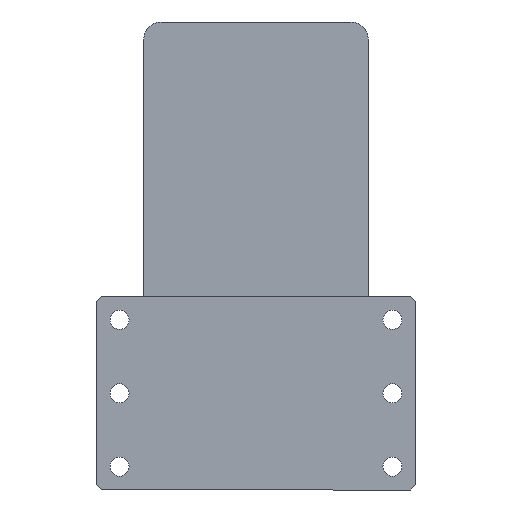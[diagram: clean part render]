
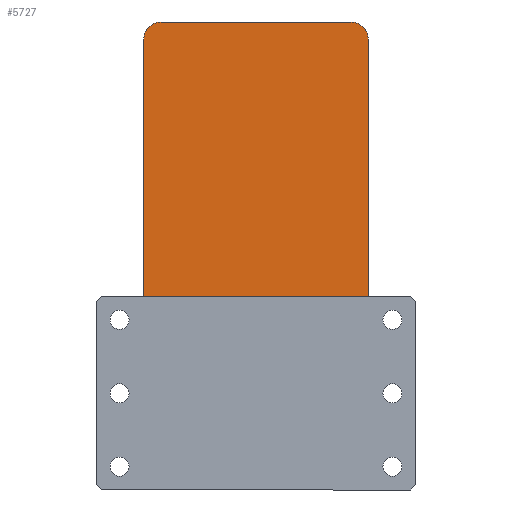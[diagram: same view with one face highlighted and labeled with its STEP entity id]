
A CAD part, left-side view. The second image highlights one B-rep face of the part: STEP entity #5727.
In plain terms, the highlighted planar face has unit normal (-1, 0, 0) as drawn and (0, 0, 1) by its records, which use the part's own axes.
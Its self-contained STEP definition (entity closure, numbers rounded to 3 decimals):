
#371 = FACE_OUTER_BOUND ( 'NONE', #1983, .T. ) ;
#1137 = VECTOR ( 'NONE', #7752, 1000. ) ;
#1192 = LINE ( 'NONE', #7703, #1137 ) ;
#1201 = ORIENTED_EDGE ( 'NONE', *, *, #8627, .T. ) ;
#1276 = DIRECTION ( 'NONE',  ( -1., 0., 0. ) ) ;
#1322 = CARTESIAN_POINT ( 'NONE',  ( -65., 135., 105. ) ) ;
#1378 = CARTESIAN_POINT ( 'NONE',  ( -55., -135., 105. ) ) ;
#1595 = ORIENTED_EDGE ( 'NONE', *, *, #10078, .T. ) ;
#1732 = CIRCLE ( 'NONE', #4521, 10. ) ;
#1790 = CIRCLE ( 'NONE', #3839, 10. ) ;
#1862 = CIRCLE ( 'NONE', #10129, 10. ) ;
#1880 = CARTESIAN_POINT ( 'NONE',  ( -65., -125., 105. ) ) ;
#1983 = EDGE_LOOP ( 'NONE', ( #3787, #7437, #1201, #3826, #4200, #8307, #10617, #1595 ) ) ;
#3647 = CARTESIAN_POINT ( 'NONE',  ( -55., 135., 105. ) ) ;
#3787 = ORIENTED_EDGE ( 'NONE', *, *, #5422, .T. ) ;
#3826 = ORIENTED_EDGE ( 'NONE', *, *, #3878, .T. ) ;
#3839 = AXIS2_PLACEMENT_3D ( 'NONE', #4393, #4347, #4257 ) ;
#3878 = EDGE_CURVE ( 'NONE', #8622, #9997, #4918, .T. ) ;
#4040 = DIRECTION ( 'NONE',  ( 1., 0., 0. ) ) ;
#4056 = DIRECTION ( 'NONE',  ( 0., 0., 1. ) ) ;
#4058 = CARTESIAN_POINT ( 'NONE',  ( 55., 125., 105. ) ) ;
#4075 = DIRECTION ( 'NONE',  ( 1., 0., 0. ) ) ;
#4089 = DIRECTION ( 'NONE',  ( 0., 0., 1. ) ) ;
#4114 = CARTESIAN_POINT ( 'NONE',  ( -55., 125., 105. ) ) ;
#4200 = ORIENTED_EDGE ( 'NONE', *, *, #8280, .T. ) ;
#4257 = DIRECTION ( 'NONE',  ( 1., 0., 0. ) ) ;
#4307 = DIRECTION ( 'NONE',  ( 0., -1., 0. ) ) ;
#4333 = CARTESIAN_POINT ( 'NONE',  ( -65., 135., 105. ) ) ;
#4347 = DIRECTION ( 'NONE',  ( 0., 0., 1. ) ) ;
#4393 = CARTESIAN_POINT ( 'NONE',  ( -55., -125., 105. ) ) ;
#4500 = CARTESIAN_POINT ( 'NONE',  ( -65., 125., 105. ) ) ;
#4521 = AXIS2_PLACEMENT_3D ( 'NONE', #4114, #4089, #4075 ) ;
#4684 = CARTESIAN_POINT ( 'NONE',  ( 55., 135., 105. ) ) ;
#4918 = CIRCLE ( 'NONE', #11180, 10. ) ;
#5124 = EDGE_CURVE ( 'NONE', #8020, #7560, #1862, .T. ) ;
#5192 = CARTESIAN_POINT ( 'NONE',  ( 55., -135., 105. ) ) ;
#5422 = EDGE_CURVE ( 'NONE', #8273, #8020, #1192, .T. ) ;
#5650 = DIRECTION ( 'NONE',  ( 1., 0., 0. ) ) ;
#5670 = DIRECTION ( 'NONE',  ( 0., 0., 1. ) ) ;
#5685 = PLANE ( 'NONE',  #10487 ) ;
#5721 = CARTESIAN_POINT ( 'NONE',  ( 0., 0., 105. ) ) ;
#5727 = ADVANCED_FACE ( 'NONE', ( #371 ), #5685, .T. ) ;
#5807 = LINE ( 'NONE', #10337, #8266 ) ;
#6361 = VERTEX_POINT ( 'NONE', #1880 ) ;
#7014 = VECTOR ( 'NONE', #1276, 1000. ) ;
#7046 = LINE ( 'NONE', #1322, #7014 ) ;
#7437 = ORIENTED_EDGE ( 'NONE', *, *, #5124, .T. ) ;
#7560 = VERTEX_POINT ( 'NONE', #9638 ) ;
#7703 = CARTESIAN_POINT ( 'NONE',  ( -65., -135., 105. ) ) ;
#7752 = DIRECTION ( 'NONE',  ( 1., 0., 0. ) ) ;
#8000 = LINE ( 'NONE', #4333, #8023 ) ;
#8020 = VERTEX_POINT ( 'NONE', #5192 ) ;
#8023 = VECTOR ( 'NONE', #4307, 1000. ) ;
#8091 = EDGE_CURVE ( 'NONE', #10079, #6361, #8000, .T. ) ;
#8266 = VECTOR ( 'NONE', #10454, 1000. ) ;
#8273 = VERTEX_POINT ( 'NONE', #1378 ) ;
#8280 = EDGE_CURVE ( 'NONE', #9997, #10675, #7046, .T. ) ;
#8307 = ORIENTED_EDGE ( 'NONE', *, *, #10110, .T. ) ;
#8622 = VERTEX_POINT ( 'NONE', #10422 ) ;
#8627 = EDGE_CURVE ( 'NONE', #7560, #8622, #5807, .T. ) ;
#9384 = DIRECTION ( 'NONE',  ( 1., 0., 0. ) ) ;
#9406 = DIRECTION ( 'NONE',  ( 0., 0., 1. ) ) ;
#9419 = CARTESIAN_POINT ( 'NONE',  ( 55., -125., 105. ) ) ;
#9638 = CARTESIAN_POINT ( 'NONE',  ( 65., -125., 105. ) ) ;
#9997 = VERTEX_POINT ( 'NONE', #4684 ) ;
#10078 = EDGE_CURVE ( 'NONE', #6361, #8273, #1790, .T. ) ;
#10079 = VERTEX_POINT ( 'NONE', #4500 ) ;
#10110 = EDGE_CURVE ( 'NONE', #10675, #10079, #1732, .T. ) ;
#10129 = AXIS2_PLACEMENT_3D ( 'NONE', #9419, #9406, #9384 ) ;
#10337 = CARTESIAN_POINT ( 'NONE',  ( 65., 135., 105. ) ) ;
#10422 = CARTESIAN_POINT ( 'NONE',  ( 65., 125., 105. ) ) ;
#10454 = DIRECTION ( 'NONE',  ( 0., 1., 0. ) ) ;
#10487 = AXIS2_PLACEMENT_3D ( 'NONE', #5721, #5670, #5650 ) ;
#10617 = ORIENTED_EDGE ( 'NONE', *, *, #8091, .T. ) ;
#10675 = VERTEX_POINT ( 'NONE', #3647 ) ;
#11180 = AXIS2_PLACEMENT_3D ( 'NONE', #4058, #4056, #4040 ) ;
